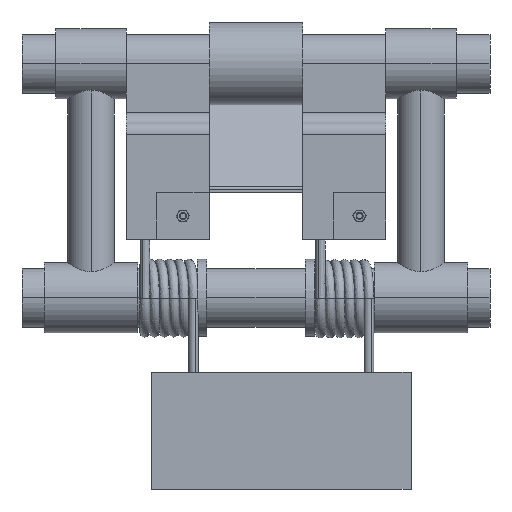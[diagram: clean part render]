
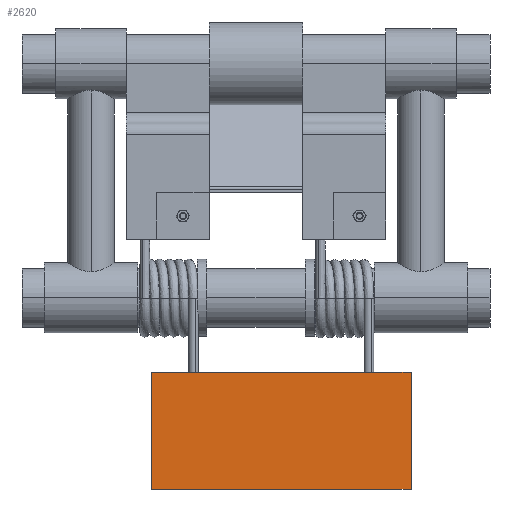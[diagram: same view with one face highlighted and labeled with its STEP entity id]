
A CAD part, left-side view. The second image highlights one B-rep face of the part: STEP entity #2620.
In plain terms, the highlighted planar face has unit normal (-1, 0, 0).
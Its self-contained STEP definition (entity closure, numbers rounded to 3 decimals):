
#2490=CARTESIAN_POINT('Line Origine',(-18.,-67.553,-137.568)) ;
#2494=CARTESIAN_POINT('Vertex',(-18.,-67.553,-87.568)) ;
#2496=CARTESIAN_POINT('Vertex',(-18.,-67.553,-187.568)) ;
#2530=CARTESIAN_POINT('Line Origine',(-18.,43.447,-187.568)) ;
#2534=CARTESIAN_POINT('Vertex',(-18.,154.447,-187.568)) ;
#2561=CARTESIAN_POINT('Line Origine',(-18.,154.447,-137.568)) ;
#2565=CARTESIAN_POINT('Vertex',(-18.,154.447,-87.568)) ;
#2604=CARTESIAN_POINT('Axis2P3D Location',(-18.,0.,0.)) ;
#2609=CARTESIAN_POINT('Line Origine',(-18.,43.447,-87.568)) ;
#2492=VECTOR('Line Direction',#2491,1.) ;
#2532=VECTOR('Line Direction',#2531,1.) ;
#2563=VECTOR('Line Direction',#2562,1.) ;
#2611=VECTOR('Line Direction',#2610,1.) ;
#2491=DIRECTION('Vector Direction',(0.,0.,1.)) ;
#2531=DIRECTION('Vector Direction',(0.,-1.,0.)) ;
#2562=DIRECTION('Vector Direction',(0.,0.,-1.)) ;
#2605=DIRECTION('Axis2P3D Direction',(1.,0.,0.)) ;
#2606=DIRECTION('Axis2P3D XDirection',(0.,1.,0.)) ;
#2610=DIRECTION('Vector Direction',(0.,1.,0.)) ;
#2607=AXIS2_PLACEMENT_3D('Plane Axis2P3D',#2604,#2605,#2606) ;
#2493=LINE('Line',#2490,#2492) ;
#2533=LINE('Line',#2530,#2532) ;
#2564=LINE('Line',#2561,#2563) ;
#2612=LINE('Line',#2609,#2611) ;
#2608=PLANE('',#2607) ;
#2498=EDGE_CURVE('',#2495,#2497,#2493,.F.) ;
#2536=EDGE_CURVE('',#2497,#2535,#2533,.F.) ;
#2567=EDGE_CURVE('',#2535,#2566,#2564,.F.) ;
#2613=EDGE_CURVE('',#2566,#2495,#2612,.F.) ;
#2614=EDGE_LOOP('',(#2615,#2616,#2617,#2618)) ;
#2615=ORIENTED_EDGE('',*,*,#2567,.F.) ;
#2616=ORIENTED_EDGE('',*,*,#2536,.F.) ;
#2617=ORIENTED_EDGE('',*,*,#2498,.F.) ;
#2618=ORIENTED_EDGE('',*,*,#2613,.F.) ;
#2495=VERTEX_POINT('',#2494) ;
#2497=VERTEX_POINT('',#2496) ;
#2535=VERTEX_POINT('',#2534) ;
#2566=VERTEX_POINT('',#2565) ;
#2620=ADVANCED_FACE('PartBody',(#2619),#2608,.F.) ;
#2619=FACE_OUTER_BOUND('',#2614,.T.) ;
